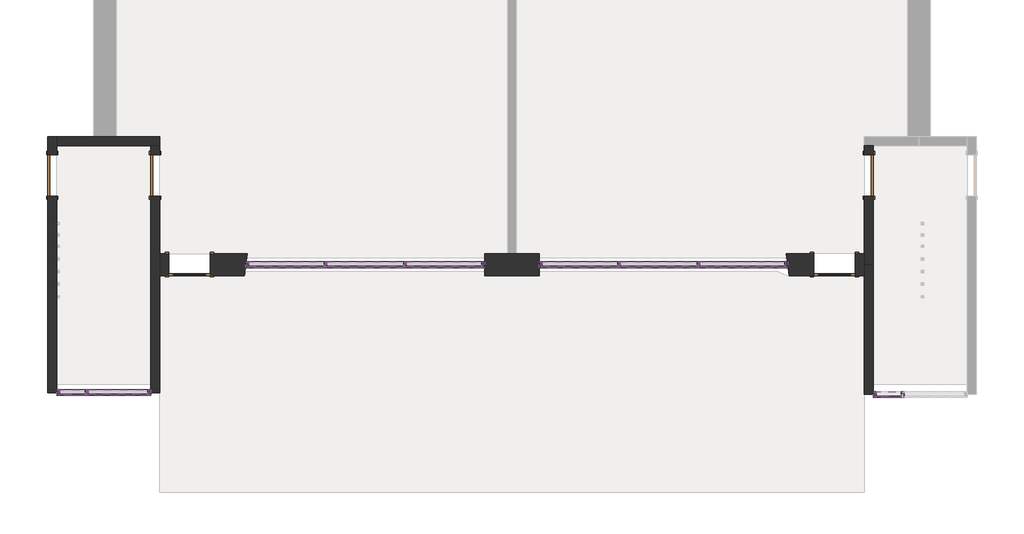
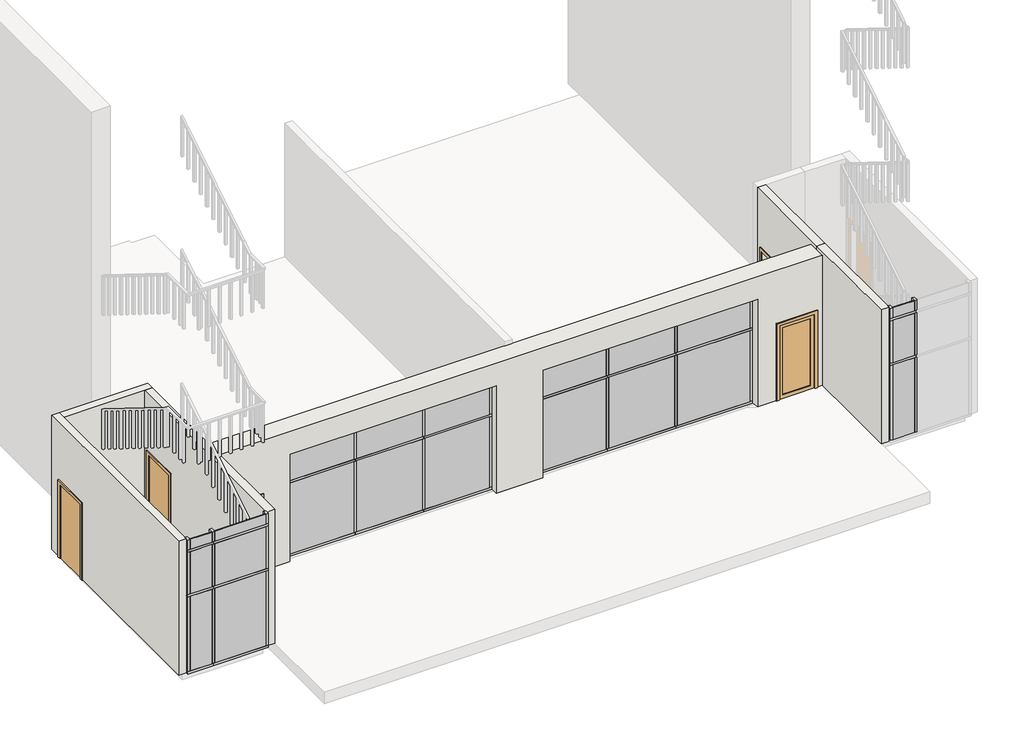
# One storey, part 1 of 4: 57 members, 21 plates, 6 walls, 5 doors.
"""IFC4 building model written with IfcOpenShell, lengths in millimetres."""

from ifc_helpers import new_model, si_unit, frame, origin, origin_with_axes, place, context, project, spatial, polyline, outline, extrude, faceted_brep, transform, mapped, element, save
from components import door_4f2f89b6, door_09f6fe45, door_78e9ea75, door_dbfeadd9, glazed_panel_glazed_panel_06b05642, glazed_panel_glazed_panel_cf187918, glazed_panel_glazed_panel_746f6af5, glazed_panel_glazed_panel_7ef709c1, glazed_panel_glazed_panel_5b8a13f5, glazed_panel_glazed_panel_805796bc, glazed_panel_glazed_panel_5f6da123, glazed_panel_glazed_panel_7e3e46a5, glazed_panel_glazed_panel_cb309cff, glazed_panel_glazed_panel_807801c3, glazed_panel_glazed_panel_a2063601, glazed_panel_glazed_panel_587f74e9, glazed_panel_glazed_panel_0b05cef3, glazed_panel_glazed_panel_5e1e44f7, glazed_panel_glazed_panel_0a1ca9b5, glazed_panel_glazed_panel_ec4ddaf9, glazed_panel_glazed_panel_b5ae23ca, glazed_panel_glazed_panel_424232f6, glazed_panel_glazed_panel_43b35b37

model = new_model("IFC4")

# Units and contexts
model_context = context("Model", 3, world=origin())
ifc_project = project(units=[si_unit("LENGTHUNIT", "METRE", prefix="MILLI")], contexts=[model_context])

# Site, building, storey
site = spatial("IfcSite", under=ifc_project)
building = spatial("IfcBuilding", under=site)
storey = spatial("IfcBuildingStorey", under=building, Name="1st Flr. Cnst.", Elevation=0.0)

# Doors
placement = place(None, origin())
door_shape = door_4f2f89b6(model_context)
element("IfcDoor", 1, ObjectType="Sgl Flush : 36\" x 80\"", at=placement, inside=storey, context=model_context, shape_type="MappedRepresentation", body=[
    mapped(door_shape, transform((-178.915882, -928.8202344, 0.0), x_axis=(0.0, 1.0, 0.0), y_axis=(-1.0, 0.0, 0.0), z_axis=(0.0, 0.0, 1.0))),
])
element("IfcDoor", 2, ObjectType="Sgl Flush : 36\" x 80\"", at=placement, inside=storey, context=model_context, shape_type="MappedRepresentation", body=[
    mapped(door_shape, transform((-2464.915882, -928.8202344, 0.0), x_axis=(0.0, 1.0, 0.0), y_axis=(-1.0, 0.0, 0.0), z_axis=(0.0, 0.0, 1.0))),
])
door_2_shape = door_09f6fe45(model_context)
element("IfcDoor", 3, ObjectType="Sgl Flush : 36\" x 80\"", at=placement, inside=storey, context=model_context, shape_type="MappedRepresentation", body=[
    mapped(door_2_shape, transform((15670.684118, -928.8202344, 0.0), x_axis=(0.0, 1.0, 0.0), y_axis=(-1.0, 0.0, 0.0), z_axis=(0.0, 0.0, 1.0))),
])
door_3_shape = door_78e9ea75(model_context)
element("IfcDoor", 4, ObjectType="Sgl-Glass 1 : 36\" x 80\"", at=placement, inside=storey, context=model_context, shape_type="MappedRepresentation", body=[
    mapped(door_3_shape, transform((583.084118, -2910.0202344, 0.0), x_axis=(-1.0, 0.0, 0.0), y_axis=(0.0, -1.0, 0.0), z_axis=(0.0, 0.0, 1.0))),
])
door_4_shape = door_dbfeadd9(model_context)
element("IfcDoor", 5, ObjectType="Sgl-Glass 1 : 36\" x 80\"", at=placement, inside=storey, context=model_context, shape_type="MappedRepresentation", body=[
    mapped(door_4_shape, transform((14908.684118, -2910.0202344, 0.0), x_axis=(1.0, 0.0, 0.0), y_axis=(0.0, 1.0, 0.0), z_axis=(0.0, 0.0, 1.0))),
])

# Members
element("IfcMember", 6, ObjectType="Rectangular Mullion : 2.5\" x 5\" rectangular", at=placement, inside=storey, context=model_context, shape_type="SweptSolid", body=[
    extrude(outline(polyline([(1835.2099837, -2973.5202344), (1835.2099837, -2846.5202344), (1898.7099837, -2846.5202344), (1898.7099837, -2973.5202344), (1835.2099837, -2973.5202344)])), frame((0.0, 0.0, 2063.75), z_axis=(0.0, 0.0, 1.0), x_axis=(1.0, 0.0, 0.0)), (0.0, 0.0, 1.0), 920.75),
])
element("IfcMember", 7, ObjectType="Rectangular Mullion : 2.5\" x 5\" rectangular", at=placement, inside=storey, context=model_context, shape_type="SweptSolid", body=[
    extrude(outline(polyline([(1835.2099837, -2973.5202344), (1835.2099837, -2846.5202344), (1898.7099837, -2846.5202344), (1898.7099837, -2973.5202344), (1835.2099837, -2973.5202344)])), frame((0.0, 0.0, 63.5), z_axis=(0.0, 0.0, 1.0), x_axis=(1.0, 0.0, 0.0)), (0.0, 0.0, 1.0), 1936.75),
])
element("IfcMember", 8, ObjectType="Rectangular Mullion : 2.5\" x 5\" rectangular", at=placement, inside=storey, context=model_context, shape_type="SweptSolid", body=[
    extrude(outline(polyline([(1835.2099837, -2973.5202344), (1835.2099837, -2846.5202344), (3602.2346951, -2846.5202344), (3602.2346951, -2973.5202344), (1835.2099837, -2973.5202344)])), origin_with_axes(), (0.0, 0.0, 1.0), 63.5),
])
element("IfcMember", 9, ObjectType="Rectangular Mullion : 2.5\" x 5\" rectangular", at=placement, inside=storey, context=model_context, shape_type="SweptSolid", body=[
    extrude(outline(polyline([(3602.2346951, -2973.5202344), (3602.2346951, -2846.5202344), (5369.2594066, -2846.5202344), (5369.2594066, -2973.5202344), (3602.2346951, -2973.5202344)])), origin_with_axes(), (0.0, 0.0, 1.0), 63.5),
])
element("IfcMember", 10, ObjectType="Rectangular Mullion : 2.5\" x 5\" rectangular", at=placement, inside=storey, context=model_context, shape_type="SweptSolid", body=[
    extrude(outline(polyline([(5369.2594066, -2973.5202344), (5369.2594066, -2846.5202344), (7136.284118, -2846.5202344), (7136.284118, -2973.5202344), (5369.2594066, -2973.5202344)])), origin_with_axes(), (0.0, 0.0, 1.0), 63.5),
])
element("IfcMember", 11, ObjectType="Rectangular Mullion : 2.5\" x 5\" rectangular", at=placement, inside=storey, context=model_context, shape_type="SweptSolid", body=[
    extrude(outline(polyline([(7136.284118, -2846.5202344), (7136.284118, -2973.5202344), (5369.2594066, -2973.5202344), (5369.2594066, -2846.5202344), (7136.284118, -2846.5202344)])), frame((0.0, 0.0, 2984.5), z_axis=(0.0, 0.0, 1.0), x_axis=(1.0, 0.0, 0.0)), (0.0, 0.0, 1.0), 63.5),
])
element("IfcMember", 12, ObjectType="Rectangular Mullion : 2.5\" x 5\" rectangular", at=placement, inside=storey, context=model_context, shape_type="SweptSolid", body=[
    extrude(outline(polyline([(3602.2346951, -2846.5202344), (3602.2346951, -2973.5202344), (1835.2099837, -2973.5202344), (1835.2099837, -2846.5202344), (3602.2346951, -2846.5202344)])), frame((0.0, 0.0, 2984.5), z_axis=(0.0, 0.0, 1.0), x_axis=(1.0, 0.0, 0.0)), (0.0, 0.0, 1.0), 63.5),
])
element("IfcMember", 13, ObjectType="Rectangular Mullion : 2.5\" x 5\" rectangular", at=placement, inside=storey, context=model_context, shape_type="SweptSolid", body=[
    extrude(outline(polyline([(5369.2594066, -2846.5202344), (5369.2594066, -2973.5202344), (3602.2346951, -2973.5202344), (3602.2346951, -2846.5202344), (5369.2594066, -2846.5202344)])), frame((0.0, 0.0, 2984.5), z_axis=(0.0, 0.0, 1.0), x_axis=(1.0, 0.0, 0.0)), (0.0, 0.0, 1.0), 63.5),
])
element("IfcMember", 14, ObjectType="Rectangular Mullion : 2.5\" x 5\" rectangular", at=placement, inside=storey, context=model_context, shape_type="SweptSolid", body=[
    extrude(outline(polyline([(3633.9846951, -2973.5202344), (3570.4846951, -2973.5202344), (3570.4846951, -2846.5202344), (3633.9846951, -2846.5202344), (3633.9846951, -2973.5202344)])), frame((0.0, 0.0, 63.5), z_axis=(0.0, 0.0, 1.0), x_axis=(1.0, 0.0, 0.0)), (0.0, 0.0, 1.0), 1936.75),
])
element("IfcMember", 15, ObjectType="Rectangular Mullion : 2.5\" x 5\" rectangular", at=placement, inside=storey, context=model_context, shape_type="SweptSolid", body=[
    extrude(outline(polyline([(3633.9846951, -2973.5202344), (3570.4846951, -2973.5202344), (3570.4846951, -2846.5202344), (3633.9846951, -2846.5202344), (3633.9846951, -2973.5202344)])), frame((0.0, 0.0, 2063.75), z_axis=(0.0, 0.0, 1.0), x_axis=(1.0, 0.0, 0.0)), (0.0, 0.0, 1.0), 920.75),
])
element("IfcMember", 16, ObjectType="Rectangular Mullion : 2.5\" x 5\" rectangular", at=placement, inside=storey, context=model_context, shape_type="SweptSolid", body=[
    extrude(outline(polyline([(3602.2346951, -2846.5202344), (3602.2346951, -2973.5202344), (1835.2099837, -2973.5202344), (1835.2099837, -2846.5202344), (3602.2346951, -2846.5202344)])), frame((0.0, 0.0, 2000.25), z_axis=(0.0, 0.0, 1.0), x_axis=(1.0, 0.0, 0.0)), (0.0, 0.0, 1.0), 63.5),
])
element("IfcMember", 17, ObjectType="Rectangular Mullion : 2.5\" x 5\" rectangular", at=placement, inside=storey, context=model_context, shape_type="SweptSolid", body=[
    extrude(outline(polyline([(5369.2594066, -2846.5202344), (5369.2594066, -2973.5202344), (3602.2346951, -2973.5202344), (3602.2346951, -2846.5202344), (5369.2594066, -2846.5202344)])), frame((0.0, 0.0, 2000.25), z_axis=(0.0, 0.0, 1.0), x_axis=(1.0, 0.0, 0.0)), (0.0, 0.0, 1.0), 63.5),
])
element("IfcMember", 18, ObjectType="Rectangular Mullion : 2.5\" x 5\" rectangular", at=placement, inside=storey, context=model_context, shape_type="SweptSolid", body=[
    extrude(outline(polyline([(7136.284118, -2846.5202344), (7136.284118, -2973.5202344), (5369.2594066, -2973.5202344), (5369.2594066, -2846.5202344), (7136.284118, -2846.5202344)])), frame((0.0, 0.0, 2000.25), z_axis=(0.0, 0.0, 1.0), x_axis=(1.0, 0.0, 0.0)), (0.0, 0.0, 1.0), 63.5),
])
element("IfcMember", 19, ObjectType="Rectangular Mullion : 2.5\" x 5\" rectangular", at=placement, inside=storey, context=model_context, shape_type="SweptSolid", body=[
    extrude(outline(polyline([(5401.0094066, -2973.5202344), (5337.5094066, -2973.5202344), (5337.5094066, -2846.5202344), (5401.0094066, -2846.5202344), (5401.0094066, -2973.5202344)])), frame((0.0, 0.0, 63.5), z_axis=(0.0, 0.0, 1.0), x_axis=(1.0, 0.0, 0.0)), (0.0, 0.0, 1.0), 1936.75),
])
element("IfcMember", 20, ObjectType="Rectangular Mullion : 2.5\" x 5\" rectangular", at=placement, inside=storey, context=model_context, shape_type="SweptSolid", body=[
    extrude(outline(polyline([(5401.0094066, -2973.5202344), (5337.5094066, -2973.5202344), (5337.5094066, -2846.5202344), (5401.0094066, -2846.5202344), (5401.0094066, -2973.5202344)])), frame((0.0, 0.0, 2063.75), z_axis=(0.0, 0.0, 1.0), x_axis=(1.0, 0.0, 0.0)), (0.0, 0.0, 1.0), 920.75),
])
element("IfcMember", 21, ObjectType="Rectangular Mullion : 2.5\" x 5\" rectangular", at=placement, inside=storey, context=model_context, shape_type="SweptSolid", body=[
    extrude(outline(polyline([(7136.284118, -2973.5202344), (7072.784118, -2973.5202344), (7072.784118, -2846.5202344), (7136.284118, -2846.5202344), (7136.284118, -2973.5202344)])), frame((0.0, 0.0, 63.5), z_axis=(0.0, 0.0, 1.0), x_axis=(1.0, 0.0, 0.0)), (0.0, 0.0, 1.0), 1936.75),
])
element("IfcMember", 22, ObjectType="Rectangular Mullion : 2.5\" x 5\" rectangular", at=placement, inside=storey, context=model_context, shape_type="SweptSolid", body=[
    extrude(outline(polyline([(7136.284118, -2973.5202344), (7072.784118, -2973.5202344), (7072.784118, -2846.5202344), (7136.284118, -2846.5202344), (7136.284118, -2973.5202344)])), frame((0.0, 0.0, 2063.75), z_axis=(0.0, 0.0, 1.0), x_axis=(1.0, 0.0, 0.0)), (0.0, 0.0, 1.0), 920.75),
])
element("IfcMember", 23, ObjectType="Rectangular Mullion : 2.5\" x 5\" rectangular", at=placement, inside=storey, context=model_context, shape_type="SweptSolid", body=[
    extrude(outline(polyline([(11889.5335409, -2973.5202344), (11889.5335409, -2846.5202344), (13866.9492343, -2846.5202344), (13866.9492343, -2973.5202344), (11889.5335409, -2973.5202344)])), frame((0.0, 0.0, 2000.25), z_axis=(0.0, 0.0, 1.0), x_axis=(1.0, 0.0, 0.0)), (0.0, 0.0, 1.0), 63.5),
])
element("IfcMember", 24, ObjectType="Rectangular Mullion : 2.5\" x 5\" rectangular", at=placement, inside=storey, context=model_context, shape_type="SweptSolid", body=[
    extrude(outline(polyline([(10122.5088295, -2973.5202344), (10122.5088295, -2846.5202344), (11889.5335409, -2846.5202344), (11889.5335409, -2973.5202344), (10122.5088295, -2973.5202344)])), frame((0.0, 0.0, 2000.25), z_axis=(0.0, 0.0, 1.0), x_axis=(1.0, 0.0, 0.0)), (0.0, 0.0, 1.0), 63.5),
])
element("IfcMember", 25, ObjectType="Rectangular Mullion : 2.5\" x 5\" rectangular", at=placement, inside=storey, context=model_context, shape_type="SweptSolid", body=[
    extrude(outline(polyline([(8355.484118, -2973.5202344), (8355.484118, -2846.5202344), (10122.5088295, -2846.5202344), (10122.5088295, -2973.5202344), (8355.484118, -2973.5202344)])), frame((0.0, 0.0, 2000.25), z_axis=(0.0, 0.0, 1.0), x_axis=(1.0, 0.0, 0.0)), (0.0, 0.0, 1.0), 63.5),
])
element("IfcMember", 26, ObjectType="Rectangular Mullion : 2.5\" x 5\" rectangular", at=placement, inside=storey, context=model_context, shape_type="SweptSolid", body=[
    extrude(outline(polyline([(10090.7588295, -2846.5202344), (10154.2588295, -2846.5202344), (10154.2588295, -2973.5202344), (10090.7588295, -2973.5202344), (10090.7588295, -2846.5202344)])), frame((0.0, 0.0, 63.5), z_axis=(0.0, 0.0, 1.0), x_axis=(1.0, 0.0, 0.0)), (0.0, 0.0, 1.0), 1936.75),
])
element("IfcMember", 27, ObjectType="Rectangular Mullion : 2.5\" x 5\" rectangular", at=placement, inside=storey, context=model_context, shape_type="SweptSolid", body=[
    extrude(outline(polyline([(10090.7588295, -2846.5202344), (10154.2588295, -2846.5202344), (10154.2588295, -2973.5202344), (10090.7588295, -2973.5202344), (10090.7588295, -2846.5202344)])), frame((0.0, 0.0, 2063.75), z_axis=(0.0, 0.0, 1.0), x_axis=(1.0, 0.0, 0.0)), (0.0, 0.0, 1.0), 920.75),
])
element("IfcMember", 28, ObjectType="Rectangular Mullion : 2.5\" x 5\" rectangular", at=placement, inside=storey, context=model_context, shape_type="SweptSolid", body=[
    extrude(outline(polyline([(11857.7835409, -2846.5202344), (11921.2835409, -2846.5202344), (11921.2835409, -2973.5202344), (11857.7835409, -2973.5202344), (11857.7835409, -2846.5202344)])), frame((0.0, 0.0, 63.5), z_axis=(0.0, 0.0, 1.0), x_axis=(1.0, 0.0, 0.0)), (0.0, 0.0, 1.0), 1936.75),
])
element("IfcMember", 29, ObjectType="Rectangular Mullion : 2.5\" x 5\" rectangular", at=placement, inside=storey, context=model_context, shape_type="SweptSolid", body=[
    extrude(outline(polyline([(11857.7835409, -2846.5202344), (11921.2835409, -2846.5202344), (11921.2835409, -2973.5202344), (11857.7835409, -2973.5202344), (11857.7835409, -2846.5202344)])), frame((0.0, 0.0, 2063.75), z_axis=(0.0, 0.0, 1.0), x_axis=(1.0, 0.0, 0.0)), (0.0, 0.0, 1.0), 920.75),
])
element("IfcMember", 30, ObjectType="Rectangular Mullion : 2.5\" x 5\" rectangular", at=placement, inside=storey, context=model_context, shape_type="SweptSolid", body=[
    extrude(outline(polyline([(8355.484118, -2846.5202344), (8418.984118, -2846.5202344), (8418.984118, -2973.5202344), (8355.484118, -2973.5202344), (8355.484118, -2846.5202344)])), frame((0.0, 0.0, 63.5), z_axis=(0.0, 0.0, 1.0), x_axis=(1.0, 0.0, 0.0)), (0.0, 0.0, 1.0), 1936.75),
])
element("IfcMember", 31, ObjectType="Rectangular Mullion : 2.5\" x 5\" rectangular", at=placement, inside=storey, context=model_context, shape_type="SweptSolid", body=[
    extrude(outline(polyline([(8355.484118, -2846.5202344), (8418.984118, -2846.5202344), (8418.984118, -2973.5202344), (8355.484118, -2973.5202344), (8355.484118, -2846.5202344)])), frame((0.0, 0.0, 2063.75), z_axis=(0.0, 0.0, 1.0), x_axis=(1.0, 0.0, 0.0)), (0.0, 0.0, 1.0), 920.75),
])
element("IfcMember", 32, ObjectType="Rectangular Mullion : 2.5\" x 5\" rectangular", at=placement, inside=storey, context=model_context, shape_type="SweptSolid", body=[
    extrude(outline(polyline([(13866.9492343, -2846.5202344), (13866.9492343, -2973.5202344), (13803.4492343, -2973.5202344), (13803.4492343, -2846.5202344), (13866.9492343, -2846.5202344)])), frame((0.0, 0.0, 2063.75), z_axis=(0.0, 0.0, 1.0), x_axis=(1.0, 0.0, 0.0)), (0.0, 0.0, 1.0), 920.75),
])
element("IfcMember", 33, ObjectType="Rectangular Mullion : 2.5\" x 5\" rectangular", at=placement, inside=storey, context=model_context, shape_type="SweptSolid", body=[
    extrude(outline(polyline([(13866.9492343, -2846.5202344), (13866.9492343, -2973.5202344), (13803.4492343, -2973.5202344), (13803.4492343, -2846.5202344), (13866.9492343, -2846.5202344)])), frame((0.0, 0.0, 63.5), z_axis=(0.0, 0.0, 1.0), x_axis=(1.0, 0.0, 0.0)), (0.0, 0.0, 1.0), 1936.75),
])
element("IfcMember", 34, ObjectType="Rectangular Mullion : 2.5\" x 5\" rectangular", at=placement, inside=storey, context=model_context, shape_type="SweptSolid", body=[
    extrude(outline(polyline([(13866.9492343, -2846.5202344), (13866.9492343, -2973.5202344), (11889.5335409, -2973.5202344), (11889.5335409, -2846.5202344), (13866.9492343, -2846.5202344)])), origin_with_axes(), (0.0, 0.0, 1.0), 63.5),
])
element("IfcMember", 35, ObjectType="Rectangular Mullion : 2.5\" x 5\" rectangular", at=placement, inside=storey, context=model_context, shape_type="SweptSolid", body=[
    extrude(outline(polyline([(11889.5335409, -2846.5202344), (11889.5335409, -2973.5202344), (10122.5088295, -2973.5202344), (10122.5088295, -2846.5202344), (11889.5335409, -2846.5202344)])), origin_with_axes(), (0.0, 0.0, 1.0), 63.5),
])
element("IfcMember", 36, ObjectType="Rectangular Mullion : 2.5\" x 5\" rectangular", at=placement, inside=storey, context=model_context, shape_type="SweptSolid", body=[
    extrude(outline(polyline([(10122.5088295, -2846.5202344), (10122.5088295, -2973.5202344), (8355.484118, -2973.5202344), (8355.484118, -2846.5202344), (10122.5088295, -2846.5202344)])), origin_with_axes(), (0.0, 0.0, 1.0), 63.5),
])
element("IfcMember", 37, ObjectType="Rectangular Mullion : 2.5\" x 5\" rectangular", at=placement, inside=storey, context=model_context, shape_type="SweptSolid", body=[
    extrude(outline(polyline([(8355.484118, -2973.5202344), (8355.484118, -2846.5202344), (10122.5088295, -2846.5202344), (10122.5088295, -2973.5202344), (8355.484118, -2973.5202344)])), frame((0.0, 0.0, 2984.5), z_axis=(0.0, 0.0, 1.0), x_axis=(1.0, 0.0, 0.0)), (0.0, 0.0, 1.0), 63.5),
])
element("IfcMember", 38, ObjectType="Rectangular Mullion : 2.5\" x 5\" rectangular", at=placement, inside=storey, context=model_context, shape_type="SweptSolid", body=[
    extrude(outline(polyline([(11889.5335409, -2973.5202344), (11889.5335409, -2846.5202344), (13866.9492343, -2846.5202344), (13866.9492343, -2973.5202344), (11889.5335409, -2973.5202344)])), frame((0.0, 0.0, 2984.5), z_axis=(0.0, 0.0, 1.0), x_axis=(1.0, 0.0, 0.0)), (0.0, 0.0, 1.0), 63.5),
])
element("IfcMember", 39, ObjectType="Rectangular Mullion : 2.5\" x 5\" rectangular", at=placement, inside=storey, context=model_context, shape_type="SweptSolid", body=[
    extrude(outline(polyline([(10122.5088295, -2973.5202344), (10122.5088295, -2846.5202344), (11889.5335409, -2846.5202344), (11889.5335409, -2973.5202344), (10122.5088295, -2973.5202344)])), frame((0.0, 0.0, 2984.5), z_axis=(0.0, 0.0, 1.0), x_axis=(1.0, 0.0, 0.0)), (0.0, 0.0, 1.0), 63.5),
])
element("IfcMember", 40, ObjectType="Rectangular Mullion : 2.5\" x 5\" rectangular", at=placement, inside=storey, context=model_context, shape_type="SweptSolid", body=[
    extrude(outline(polyline([(-1734.665882, -5685.6581603), (-1671.165882, -5685.6581603), (-1671.165882, -5812.6581603), (-1734.665882, -5812.6581603), (-1734.665882, -5685.6581603)])), frame((0.0, 0.0, 63.5), z_axis=(0.0, 0.0, 1.0), x_axis=(1.0, 0.0, 0.0)), (0.0, 0.0, 1.0), 2038.35),
])
element("IfcMember", 41, ObjectType="Rectangular Mullion : 2.5\" x 5\" rectangular", at=placement, inside=storey, context=model_context, shape_type="SweptSolid", body=[
    extrude(outline(polyline([(-1734.665882, -5685.6581603), (-1671.165882, -5685.6581603), (-1671.165882, -5812.6581603), (-1734.665882, -5812.6581603), (-1734.665882, -5685.6581603)])), frame((0.0, 0.0, 3384.55), z_axis=(0.0, 0.0, 1.0), x_axis=(1.0, 0.0, 0.0)), (0.0, 0.0, 1.0), 273.05),
])
element("IfcMember", 42, ObjectType="Rectangular Mullion : 2.5\" x 5\" rectangular", at=placement, inside=storey, context=model_context, shape_type="SweptSolid", body=[
    extrude(outline(polyline([(-1734.665882, -5685.6581603), (-1671.165882, -5685.6581603), (-1671.165882, -5812.6581603), (-1734.665882, -5812.6581603), (-1734.665882, -5685.6581603)])), frame((0.0, 0.0, 2165.35), z_axis=(0.0, 0.0, 1.0), x_axis=(1.0, 0.0, 0.0)), (0.0, 0.0, 1.0), 1155.7),
])
element("IfcMember", 43, ObjectType="Rectangular Mullion : 2.5\" x 5\" rectangular", at=placement, inside=storey, context=model_context, shape_type="SweptSolid", body=[
    extrude(outline(polyline([(-280.515882, -5685.6581603), (-280.515882, -5812.6581603), (-1702.915882, -5812.6581603), (-1702.915882, -5685.6581603), (-280.515882, -5685.6581603)])), origin_with_axes(), (0.0, 0.0, 1.0), 63.5),
])
element("IfcMember", 44, ObjectType="Rectangular Mullion : 2.5\" x 5\" rectangular", at=placement, inside=storey, context=model_context, shape_type="SweptSolid", body=[
    extrude(outline(polyline([(-2363.315882, -5685.6581603), (-2299.815882, -5685.6581603), (-2299.815882, -5812.6581603), (-2363.315882, -5812.6581603), (-2363.315882, -5685.6581603)])), frame((0.0, 0.0, 63.5), z_axis=(0.0, 0.0, 1.0), x_axis=(1.0, 0.0, 0.0)), (0.0, 0.0, 1.0), 2038.35),
])
element("IfcMember", 45, ObjectType="Rectangular Mullion : 2.5\" x 5\" rectangular", at=placement, inside=storey, context=model_context, shape_type="SweptSolid", body=[
    extrude(outline(polyline([(-280.515882, -5685.6581603), (-280.515882, -5812.6581603), (-344.015882, -5812.6581603), (-344.015882, -5685.6581603), (-280.515882, -5685.6581603)])), frame((0.0, 0.0, 3384.55), z_axis=(0.0, 0.0, 1.0), x_axis=(1.0, 0.0, 0.0)), (0.0, 0.0, 1.0), 273.05),
])
element("IfcMember", 46, ObjectType="Rectangular Mullion : 2.5\" x 5\" rectangular", at=placement, inside=storey, context=model_context, shape_type="SweptSolid", body=[
    extrude(outline(polyline([(-1702.915882, -5812.6581603), (-1702.915882, -5685.6581603), (-280.515882, -5685.6581603), (-280.515882, -5812.6581603), (-1702.915882, -5812.6581603)])), frame((0.0, 0.0, 3321.05), z_axis=(0.0, 0.0, 1.0), x_axis=(1.0, 0.0, 0.0)), (0.0, 0.0, 1.0), 63.5),
])
element("IfcMember", 47, ObjectType="Rectangular Mullion : 2.5\" x 5\" rectangular", at=placement, inside=storey, context=model_context, shape_type="SweptSolid", body=[
    extrude(outline(polyline([(-2363.315882, -5812.6581603), (-2363.315882, -5685.6581603), (-1702.915882, -5685.6581603), (-1702.915882, -5812.6581603), (-2363.315882, -5812.6581603)])), frame((0.0, 0.0, 3321.05), z_axis=(0.0, 0.0, 1.0), x_axis=(1.0, 0.0, 0.0)), (0.0, 0.0, 1.0), 63.5),
])
element("IfcMember", 48, ObjectType="Rectangular Mullion : 2.5\" x 5\" rectangular", at=placement, inside=storey, context=model_context, shape_type="SweptSolid", body=[
    extrude(outline(polyline([(-1702.915882, -5812.6581603), (-1702.915882, -5685.6581603), (-280.515882, -5685.6581603), (-280.515882, -5812.6581603), (-1702.915882, -5812.6581603)])), frame((0.0, 0.0, 2101.85), z_axis=(0.0, 0.0, 1.0), x_axis=(1.0, 0.0, 0.0)), (0.0, 0.0, 1.0), 63.5),
])
element("IfcMember", 49, ObjectType="Rectangular Mullion : 2.5\" x 5\" rectangular", at=placement, inside=storey, context=model_context, shape_type="SweptSolid", body=[
    extrude(outline(polyline([(-2363.315882, -5812.6581603), (-2363.315882, -5685.6581603), (-1702.915882, -5685.6581603), (-1702.915882, -5812.6581603), (-2363.315882, -5812.6581603)])), frame((0.0, 0.0, 2101.85), z_axis=(0.0, 0.0, 1.0), x_axis=(1.0, 0.0, 0.0)), (0.0, 0.0, 1.0), 63.5),
])
element("IfcMember", 50, ObjectType="Rectangular Mullion : 2.5\" x 5\" rectangular", at=placement, inside=storey, context=model_context, shape_type="SweptSolid", body=[
    extrude(outline(polyline([(-1702.915882, -5685.6581603), (-1702.915882, -5812.6581603), (-2363.315882, -5812.6581603), (-2363.315882, -5685.6581603), (-1702.915882, -5685.6581603)])), origin_with_axes(), (0.0, 0.0, 1.0), 63.5),
])
element("IfcMember", 51, ObjectType="Rectangular Mullion : 2.5\" x 5\" rectangular", at=placement, inside=storey, context=model_context, shape_type="SweptSolid", body=[
    extrude(outline(polyline([(-2363.315882, -5685.6581603), (-2299.815882, -5685.6581603), (-2299.815882, -5812.6581603), (-2363.315882, -5812.6581603), (-2363.315882, -5685.6581603)])), frame((0.0, 0.0, 3384.55), z_axis=(0.0, 0.0, 1.0), x_axis=(1.0, 0.0, 0.0)), (0.0, 0.0, 1.0), 273.05),
])
element("IfcMember", 52, ObjectType="Rectangular Mullion : 2.5\" x 5\" rectangular", at=placement, inside=storey, context=model_context, shape_type="SweptSolid", body=[
    extrude(outline(polyline([(-2363.315882, -5685.6581603), (-2299.815882, -5685.6581603), (-2299.815882, -5812.6581603), (-2363.315882, -5812.6581603), (-2363.315882, -5685.6581603)])), frame((0.0, 0.0, 2165.35), z_axis=(0.0, 0.0, 1.0), x_axis=(1.0, 0.0, 0.0)), (0.0, 0.0, 1.0), 1155.7),
])
element("IfcMember", 53, ObjectType="Rectangular Mullion : 2.5\" x 5\" rectangular", at=placement, inside=storey, context=model_context, shape_type="SweptSolid", body=[
    extrude(outline(polyline([(-280.515882, -5685.6581603), (-280.515882, -5812.6581603), (-344.015882, -5812.6581603), (-344.015882, -5685.6581603), (-280.515882, -5685.6581603)])), frame((0.0, 0.0, 2165.35), z_axis=(0.0, 0.0, 1.0), x_axis=(1.0, 0.0, 0.0)), (0.0, 0.0, 1.0), 1155.7),
])
element("IfcMember", 54, ObjectType="Rectangular Mullion : 2.5\" x 5\" rectangular", at=placement, inside=storey, context=model_context, shape_type="SweptSolid", body=[
    extrude(outline(polyline([(-280.515882, -5685.6581603), (-280.515882, -5812.6581603), (-344.015882, -5812.6581603), (-344.015882, -5685.6581603), (-280.515882, -5685.6581603)])), frame((0.0, 0.0, 63.5), z_axis=(0.0, 0.0, 1.0), x_axis=(1.0, 0.0, 0.0)), (0.0, 0.0, 1.0), 2038.35),
])
element("IfcMember", 55, ObjectType="Rectangular Mullion : 2.5\" x 5\" rectangular", at=placement, inside=storey, context=model_context, shape_type="SweptSolid", body=[
    extrude(outline(polyline([(16396.171618, -5729.4662808), (16459.671618, -5729.4662808), (16459.671618, -5856.4662808), (16396.171618, -5856.4662808), (16396.171618, -5729.4662808)])), frame((0.0, 0.0, 63.5), z_axis=(0.0, 0.0, 1.0), x_axis=(1.0, 0.0, 0.0)), (0.0, 0.0, 1.0), 2038.35),
])
element("IfcMember", 56, ObjectType="Rectangular Mullion : 2.5\" x 5\" rectangular", at=placement, inside=storey, context=model_context, shape_type="SweptSolid", body=[
    extrude(outline(polyline([(16396.171618, -5729.4662808), (16459.671618, -5729.4662808), (16459.671618, -5856.4662808), (16396.171618, -5856.4662808), (16396.171618, -5729.4662808)])), frame((0.0, 0.0, 3384.55), z_axis=(0.0, 0.0, 1.0), x_axis=(1.0, 0.0, 0.0)), (0.0, 0.0, 1.0), 273.05),
])
element("IfcMember", 57, ObjectType="Rectangular Mullion : 2.5\" x 5\" rectangular", at=placement, inside=storey, context=model_context, shape_type="SweptSolid", body=[
    extrude(outline(polyline([(16396.171618, -5729.4662808), (16459.671618, -5729.4662808), (16459.671618, -5856.4662808), (16396.171618, -5856.4662808), (16396.171618, -5729.4662808)])), frame((0.0, 0.0, 2165.35), z_axis=(0.0, 0.0, 1.0), x_axis=(1.0, 0.0, 0.0)), (0.0, 0.0, 1.0), 1155.7),
])
element("IfcMember", 58, ObjectType="Rectangular Mullion : 2.5\" x 5\" rectangular", at=placement, inside=storey, context=model_context, shape_type="SweptSolid", body=[
    extrude(outline(polyline([(15772.284118, -5729.4662808), (15835.784118, -5729.4662808), (15835.784118, -5856.4662808), (15772.284118, -5856.4662808), (15772.284118, -5729.4662808)])), frame((0.0, 0.0, 63.5), z_axis=(0.0, 0.0, 1.0), x_axis=(1.0, 0.0, 0.0)), (0.0, 0.0, 1.0), 2038.35),
])
element("IfcMember", 59, ObjectType="Rectangular Mullion : 2.5\" x 5\" rectangular", at=placement, inside=storey, context=model_context, shape_type="SweptSolid", body=[
    extrude(outline(polyline([(15772.284118, -5856.4662808), (15772.284118, -5729.4662808), (16427.921618, -5729.4662808), (16427.921618, -5856.4662808), (15772.284118, -5856.4662808)])), frame((0.0, 0.0, 3321.05), z_axis=(0.0, 0.0, 1.0), x_axis=(1.0, 0.0, 0.0)), (0.0, 0.0, 1.0), 63.5),
])
element("IfcMember", 60, ObjectType="Rectangular Mullion : 2.5\" x 5\" rectangular", at=placement, inside=storey, context=model_context, shape_type="SweptSolid", body=[
    extrude(outline(polyline([(15772.284118, -5856.4662808), (15772.284118, -5729.4662808), (16427.921618, -5729.4662808), (16427.921618, -5856.4662808), (15772.284118, -5856.4662808)])), frame((0.0, 0.0, 2101.85), z_axis=(0.0, 0.0, 1.0), x_axis=(1.0, 0.0, 0.0)), (0.0, 0.0, 1.0), 63.5),
])
element("IfcMember", 61, ObjectType="Rectangular Mullion : 2.5\" x 5\" rectangular", at=placement, inside=storey, context=model_context, shape_type="SweptSolid", body=[
    extrude(outline(polyline([(15772.284118, -5729.4662808), (15835.784118, -5729.4662808), (15835.784118, -5856.4662808), (15772.284118, -5856.4662808), (15772.284118, -5729.4662808)])), frame((0.0, 0.0, 3384.55), z_axis=(0.0, 0.0, 1.0), x_axis=(1.0, 0.0, 0.0)), (0.0, 0.0, 1.0), 273.05),
])
element("IfcMember", 62, ObjectType="Rectangular Mullion : 2.5\" x 5\" rectangular", at=placement, inside=storey, context=model_context, shape_type="SweptSolid", body=[
    extrude(outline(polyline([(15772.284118, -5729.4662808), (15835.784118, -5729.4662808), (15835.784118, -5856.4662808), (15772.284118, -5856.4662808), (15772.284118, -5729.4662808)])), frame((0.0, 0.0, 2165.35), z_axis=(0.0, 0.0, 1.0), x_axis=(1.0, 0.0, 0.0)), (0.0, 0.0, 1.0), 1155.7),
])

# Plates
glazed_panel_glazed_panel_shape = glazed_panel_glazed_panel_06b05642(model_context)
element("IfcPlate", 63, ObjectType="Glazed Panel : Glazed Panel", at=placement, inside=storey, context=model_context, shape_type="MappedRepresentation", body=[
    mapped(glazed_panel_glazed_panel_shape, transform((-1007.590882, -5749.1581603, 63.5), x_axis=(-1.0, 0.0, 0.0), y_axis=(0.0, -1.0, 0.0), z_axis=(0.0, 0.0, 1.0))),
])
glazed_panel_glazed_panel_2_shape = glazed_panel_glazed_panel_cf187918(model_context)
element("IfcPlate", 64, ObjectType="Glazed Panel : Glazed Panel", at=placement, inside=storey, context=model_context, shape_type="MappedRepresentation", body=[
    mapped(glazed_panel_glazed_panel_2_shape, transform((2734.5973394, -2910.0202344, 63.5), x_axis=(1.0, 0.0, 0.0), y_axis=(0.0, 1.0, 0.0), z_axis=(0.0, 0.0, 1.0))),
])
element("IfcPlate", 65, ObjectType="Glazed Panel : Glazed Panel", at=placement, inside=storey, context=model_context, shape_type="MappedRepresentation", body=[
    mapped(glazed_panel_glazed_panel_2_shape, transform((6236.8967623, -2910.0202344, 63.5), x_axis=(1.0, 0.0, 0.0), y_axis=(0.0, 1.0, 0.0), z_axis=(0.0, 0.0, 1.0))),
])
glazed_panel_glazed_panel_3_shape = glazed_panel_glazed_panel_746f6af5(model_context)
element("IfcPlate", 66, ObjectType="Glazed Panel : Glazed Panel", at=placement, inside=storey, context=model_context, shape_type="MappedRepresentation", body=[
    mapped(glazed_panel_glazed_panel_3_shape, transform((12862.3663876, -2910.0202344, 63.5), x_axis=(-1.0, 0.0, 0.0), y_axis=(0.0, -1.0, 0.0), z_axis=(0.0, 0.0, 1.0))),
])
glazed_panel_glazed_panel_4_shape = glazed_panel_glazed_panel_7ef709c1(model_context)
element("IfcPlate", 67, ObjectType="Glazed Panel : Glazed Panel", at=placement, inside=storey, context=model_context, shape_type="MappedRepresentation", body=[
    mapped(glazed_panel_glazed_panel_4_shape, transform((2734.5973394, -2910.0202344, 2063.75), x_axis=(1.0, 0.0, 0.0), y_axis=(0.0, 1.0, 0.0), z_axis=(0.0, 0.0, 1.0))),
])
element("IfcPlate", 68, ObjectType="Glazed Panel : Glazed Panel", at=placement, inside=storey, context=model_context, shape_type="MappedRepresentation", body=[
    mapped(glazed_panel_glazed_panel_4_shape, transform((6236.8967623, -2910.0202344, 2063.75), x_axis=(1.0, 0.0, 0.0), y_axis=(0.0, 1.0, 0.0), z_axis=(0.0, 0.0, 1.0))),
])
glazed_panel_glazed_panel_5_shape = glazed_panel_glazed_panel_5b8a13f5(model_context)
element("IfcPlate", 69, ObjectType="Glazed Panel : Glazed Panel", at=placement, inside=storey, context=model_context, shape_type="MappedRepresentation", body=[
    mapped(glazed_panel_glazed_panel_5_shape, transform((12862.3663876, -2910.0202344, 2063.75), x_axis=(-1.0, 0.0, 0.0), y_axis=(0.0, -1.0, 0.0), z_axis=(0.0, 0.0, 1.0))),
])
glazed_panel_glazed_panel_6_shape = glazed_panel_glazed_panel_805796bc(model_context)
element("IfcPlate", 70, ObjectType="Glazed Panel : Glazed Panel", at=placement, inside=storey, context=model_context, shape_type="MappedRepresentation", body=[
    mapped(glazed_panel_glazed_panel_6_shape, transform((4485.7470509, -2910.0202344, 63.5), x_axis=(1.0, 0.0, 0.0), y_axis=(0.0, 1.0, 0.0), z_axis=(0.0, 0.0, 1.0))),
])
glazed_panel_glazed_panel_7_shape = glazed_panel_glazed_panel_5f6da123(model_context)
element("IfcPlate", 71, ObjectType="Glazed Panel : Glazed Panel", at=placement, inside=storey, context=model_context, shape_type="MappedRepresentation", body=[
    mapped(glazed_panel_glazed_panel_7_shape, transform((4485.7470509, -2910.0202344, 2063.75), x_axis=(1.0, 0.0, 0.0), y_axis=(0.0, 1.0, 0.0), z_axis=(0.0, 0.0, 1.0))),
])
glazed_panel_glazed_panel_8_shape = glazed_panel_glazed_panel_7e3e46a5(model_context)
element("IfcPlate", 72, ObjectType="Glazed Panel : Glazed Panel", at=placement, inside=storey, context=model_context, shape_type="MappedRepresentation", body=[
    mapped(glazed_panel_glazed_panel_8_shape, transform((11006.0211852, -2910.0202344, 63.5), x_axis=(-1.0, 0.0, 0.0), y_axis=(0.0, -1.0, 0.0), z_axis=(0.0, 0.0, 1.0))),
])
glazed_panel_glazed_panel_9_shape = glazed_panel_glazed_panel_cb309cff(model_context)
element("IfcPlate", 73, ObjectType="Glazed Panel : Glazed Panel", at=placement, inside=storey, context=model_context, shape_type="MappedRepresentation", body=[
    mapped(glazed_panel_glazed_panel_9_shape, transform((11006.0211852, -2910.0202344, 2063.75), x_axis=(-1.0, 0.0, 0.0), y_axis=(0.0, -1.0, 0.0), z_axis=(0.0, 0.0, 1.0))),
])
glazed_panel_glazed_panel_10_shape = glazed_panel_glazed_panel_807801c3(model_context)
element("IfcPlate", 74, ObjectType="Glazed Panel : Glazed Panel", at=placement, inside=storey, context=model_context, shape_type="MappedRepresentation", body=[
    mapped(glazed_panel_glazed_panel_10_shape, transform((9254.8714738, -2910.0202344, 63.5), x_axis=(-1.0, 0.0, 0.0), y_axis=(0.0, -1.0, 0.0), z_axis=(0.0, 0.0, 1.0))),
])
glazed_panel_glazed_panel_11_shape = glazed_panel_glazed_panel_a2063601(model_context)
element("IfcPlate", 75, ObjectType="Glazed Panel : Glazed Panel", at=placement, inside=storey, context=model_context, shape_type="MappedRepresentation", body=[
    mapped(glazed_panel_glazed_panel_11_shape, transform((9254.8714738, -2910.0202344, 2063.75), x_axis=(-1.0, 0.0, 0.0), y_axis=(0.0, -1.0, 0.0), z_axis=(0.0, 0.0, 1.0))),
])
glazed_panel_glazed_panel_12_shape = glazed_panel_glazed_panel_587f74e9(model_context)
element("IfcPlate", 76, ObjectType="Glazed Panel : Glazed Panel", at=placement, inside=storey, context=model_context, shape_type="MappedRepresentation", body=[
    mapped(glazed_panel_glazed_panel_12_shape, transform((-1007.590882, -5749.1581603, 3384.55), x_axis=(-1.0, 0.0, 0.0), y_axis=(0.0, -1.0, 0.0), z_axis=(0.0, 0.0, 1.0))),
])
glazed_panel_glazed_panel_13_shape = glazed_panel_glazed_panel_0b05cef3(model_context)
element("IfcPlate", 77, ObjectType="Glazed Panel : Glazed Panel", at=placement, inside=storey, context=model_context, shape_type="MappedRepresentation", body=[
    mapped(glazed_panel_glazed_panel_13_shape, transform((-2017.240882, -5749.1581603, 63.5), x_axis=(-1.0, 0.0, 0.0), y_axis=(0.0, -1.0, 0.0), z_axis=(0.0, 0.0, 1.0))),
])
glazed_panel_glazed_panel_14_shape = glazed_panel_glazed_panel_5e1e44f7(model_context)
element("IfcPlate", 78, ObjectType="Glazed Panel : Glazed Panel", at=placement, inside=storey, context=model_context, shape_type="MappedRepresentation", body=[
    mapped(glazed_panel_glazed_panel_14_shape, transform((-2017.240882, -5749.1581603, 3384.55), x_axis=(-1.0, 0.0, 0.0), y_axis=(0.0, -1.0, 0.0), z_axis=(0.0, 0.0, 1.0))),
])
glazed_panel_glazed_panel_15_shape = glazed_panel_glazed_panel_0a1ca9b5(model_context)
element("IfcPlate", 79, ObjectType="Glazed Panel : Glazed Panel", at=placement, inside=storey, context=model_context, shape_type="MappedRepresentation", body=[
    mapped(glazed_panel_glazed_panel_15_shape, transform((-1007.590882, -5749.1581603, 2165.35), x_axis=(-1.0, 0.0, 0.0), y_axis=(0.0, -1.0, 0.0), z_axis=(0.0, 0.0, 1.0))),
])
glazed_panel_glazed_panel_16_shape = glazed_panel_glazed_panel_ec4ddaf9(model_context)
element("IfcPlate", 80, ObjectType="Glazed Panel : Glazed Panel", at=placement, inside=storey, context=model_context, shape_type="MappedRepresentation", body=[
    mapped(glazed_panel_glazed_panel_16_shape, transform((-2017.240882, -5749.1581603, 2165.35), x_axis=(-1.0, 0.0, 0.0), y_axis=(0.0, -1.0, 0.0), z_axis=(0.0, 0.0, 1.0))),
])
glazed_panel_glazed_panel_17_shape = glazed_panel_glazed_panel_b5ae23ca(model_context)
element("IfcPlate", 81, ObjectType="Glazed Panel : Glazed Panel", at=placement, inside=storey, context=model_context, shape_type="MappedRepresentation", body=[
    mapped(glazed_panel_glazed_panel_17_shape, transform((16115.977868, -5792.9662808, 63.5), x_axis=(-1.0, 0.0, 0.0), y_axis=(0.0, -1.0, 0.0), z_axis=(0.0, 0.0, 1.0))),
])
glazed_panel_glazed_panel_18_shape = glazed_panel_glazed_panel_424232f6(model_context)
element("IfcPlate", 82, ObjectType="Glazed Panel : Glazed Panel", at=placement, inside=storey, context=model_context, shape_type="MappedRepresentation", body=[
    mapped(glazed_panel_glazed_panel_18_shape, transform((16115.977868, -5792.9662808, 3384.55), x_axis=(-1.0, 0.0, 0.0), y_axis=(0.0, -1.0, 0.0), z_axis=(0.0, 0.0, 1.0))),
])
glazed_panel_glazed_panel_19_shape = glazed_panel_glazed_panel_43b35b37(model_context)
element("IfcPlate", 83, ObjectType="Glazed Panel : Glazed Panel", at=placement, inside=storey, context=model_context, shape_type="MappedRepresentation", body=[
    mapped(glazed_panel_glazed_panel_19_shape, transform((16115.977868, -5792.9662808, 2165.35), x_axis=(-1.0, 0.0, 0.0), y_axis=(0.0, -1.0, 0.0), z_axis=(0.0, 0.0, 1.0))),
])

# Walls
element("IfcWall", 84, ObjectType="Cohouse - Exterior - Conc", at=placement, inside=storey, context=model_context, shape_type="Brep", body=[
    faceted_brep([(-77.315882, -65.2202344, 0.0), (-2363.315882, -65.2202344, 0.0), (-2363.315882, -65.2202344, 3657.6), (-77.315882, -65.2202344, 3657.6), (-77.315882, -268.4202344, 0.0), (-77.315882, -268.4202344, 3657.6), (-280.515882, -268.4202344, 3657.6), (-2363.315882, -268.4202344, 3657.6), (-2363.315882, -268.4202344, 0.0), (-280.515882, -268.4202344, 0.0)], [[[0, 1, 2, 3]], [[4, 5, 6, 7, 8, 9]], [[1, 0, 4, 9, 8]], [[3, 2, 7, 6, 5]], [[0, 3, 5, 4]], [[2, 1, 8, 7]]]),
])
element("IfcWall", 85, ObjectType="Cohouse - Exterior - Conc", at=placement, inside=storey, context=model_context, shape_type="Brep", body=[
    faceted_brep([(-2566.515882, -65.2202344, 0.0), (-2566.515882, -471.6202344, 0.0), (-2566.515882, -471.6202344, 2032.0), (-2566.515882, -1386.0202344, 2032.0), (-2566.515882, -1386.0202344, 0.0), (-2566.515882, -5749.1581603, 0.0), (-2566.515882, -5749.1581603, 3657.6), (-2566.515882, -65.2202344, 3657.6), (-2363.315882, -471.6202344, 2032.0), (-2363.315882, -471.6202344, 0.0), (-2363.315882, -268.4202344, 0.0), (-2363.315882, -65.2202344, 0.0), (-2363.315882, -65.2202344, 3657.6), (-2363.315882, -268.4202344, 3657.6), (-2363.315882, -5749.1581603, 3657.6), (-2363.315882, -5749.1581603, 0.0), (-2363.315882, -1386.0202344, 0.0), (-2363.315882, -1386.0202344, 2032.0)], [[[0, 1, 2, 3, 4, 5, 6, 7]], [[8, 9, 10, 11, 12, 13, 14, 15, 16, 17]], [[11, 10, 9, 1, 0]], [[16, 15, 5, 4]], [[6, 5, 15, 14]], [[7, 6, 14, 13, 12]], [[0, 7, 12, 11]], [[2, 1, 9, 8]], [[3, 2, 8, 17]], [[4, 3, 17, 16]]]),
])
element("IfcWall", 86, ObjectType="Cohouse - Exterior - Conc", at=placement, inside=storey, context=model_context, shape_type="Brep", body=[
    faceted_brep([(-280.515882, -268.4202344, 0.0), (-280.515882, -471.6202344, 0.0), (-280.515882, -471.6202344, 2032.0), (-280.515882, -1386.0202344, 2032.0), (-280.515882, -1386.0202344, 0.0), (-280.515882, -5749.1581603, 0.0), (-280.515882, -5749.1581603, 3657.6), (-280.515882, -268.4202344, 3657.6), (-77.315882, -471.6202344, 2032.0), (-77.315882, -471.6202344, 0.0), (-77.315882, -268.4202344, 0.0), (-77.315882, -268.4202344, 3657.6), (-77.315882, -5749.1581603, 3657.6), (-77.315882, -5749.1581603, 0.0), (-77.315882, -3157.6702344, 0.0), (-77.315882, -2662.3702344, 0.0), (-77.315882, -1386.0202344, 0.0), (-77.315882, -1386.0202344, 2032.0)], [[[0, 1, 2, 3, 4, 5, 6, 7]], [[8, 9, 10, 11, 12, 13, 14, 15, 16, 17]], [[10, 9, 1, 0]], [[16, 15, 14, 13, 5, 4]], [[6, 5, 13, 12]], [[7, 6, 12, 11]], [[0, 7, 11, 10]], [[2, 1, 9, 8]], [[3, 2, 8, 17]], [[4, 3, 17, 16]]]),
])
element("IfcWall", 87, ObjectType="Cohouse - Exterior - Conc", at=placement, inside=storey, context=model_context, shape_type="Brep", body=[
    faceted_brep([(15569.084118, -268.4202344, 0.0), (15569.084118, -471.6202344, 0.0), (15569.084118, -471.6202344, 2032.0), (15569.084118, -1386.0202344, 2032.0), (15569.084118, -1386.0202344, 0.0), (15569.084118, -2662.3702344, 0.0), (15569.084118, -2910.0202344, 0.0), (15569.084118, -2910.0202344, 3657.6), (15569.084118, -268.4202344, 3657.6), (15772.284118, -471.6202344, 2032.0), (15772.284118, -471.6202344, 0.0), (15772.284118, -268.4202344, 0.0), (15772.284118, -268.4202344, 3657.6), (15772.284118, -2910.0202344, 3657.6), (15772.284118, -2910.0202344, 0.0), (15772.284118, -1386.0202344, 0.0), (15772.284118, -1386.0202344, 2032.0)], [[[0, 1, 2, 3, 4, 5, 6, 7, 8]], [[9, 10, 11, 12, 13, 14, 15, 16]], [[11, 10, 1, 0]], [[15, 14, 6, 5, 4]], [[7, 6, 14, 13]], [[8, 7, 13, 12]], [[0, 8, 12, 11]], [[2, 1, 10, 9]], [[3, 2, 9, 16]], [[4, 3, 16, 15]]]),
])
element("IfcWall", 88, ObjectType="Cohouse - Exterior - Conc", at=placement, inside=storey, context=model_context, shape_type="Brep", body=[
    faceted_brep([(15569.084118, -2910.0202344, 0.0), (15569.084118, -3157.6702344, 0.0), (15569.084118, -5792.9662808, 0.0), (15569.084118, -5792.9662808, 3657.6), (15569.084118, -2910.0202344, 3657.6), (15772.284118, -2910.0202344, 0.0), (15772.284118, -2910.0202344, 3657.6), (15772.284118, -5792.9662808, 3657.6), (15772.284118, -5792.9662808, 0.0)], [[[0, 1, 2, 3, 4]], [[5, 6, 7, 8]], [[2, 1, 0, 5, 8]], [[3, 2, 8, 7]], [[4, 3, 7, 6]], [[0, 4, 6, 5]]]),
])
element("IfcWall", 89, ObjectType="Co-house - Exterior - Brick on CMU", at=placement, inside=storey, context=model_context, shape_type="Brep", body=[
    faceted_brep([(15365.884118, -3157.6702344, 2032.0), (15365.884118, -3157.6702344, 0.0), (15569.084118, -3157.6702344, 0.0), (15569.084118, -3157.6702344, 3549.65), (-77.315882, -3157.6702344, 3549.65), (-77.315882, -3157.6702344, 0.0), (125.884118, -3157.6702344, 0.0), (125.884118, -3157.6702344, 2032.0), (1040.284118, -3157.6702344, 2032.0), (1040.284118, -3157.6702344, 0.0), (1802.5171906, -3157.6702344, 0.0), (1802.5171906, -3157.6702344, 2940.05), (7136.284118, -3157.6702344, 2940.05), (7136.284118, -3157.6702344, 0.0), (8348.6821195, -3157.6702344, 0.0), (8348.6821195, -3157.6702344, 2940.05), (13899.5529754, -3157.6702344, 2940.05), (13899.5529754, -3157.6702344, 0.0), (14451.484118, -3157.6702344, 0.0), (14451.484118, -3157.6702344, 2032.0), (15569.084118, -2662.3702344, 0.0), (15365.884118, -2662.3702344, 0.0), (15365.884118, -2662.3702344, 2032.0), (14451.484118, -2662.3702344, 2032.0), (14451.484118, -2662.3702344, 0.0), (13834.3454933, -2662.3702344, 0.0), (13834.3454933, -2662.3702344, 2940.05), (8348.6821195, -2662.3702344, 2940.05), (8348.6821195, -2662.3702344, 0.0), (7842.721618, -2662.3702344, 0.0), (7649.046618, -2662.3702344, 0.0), (7136.284118, -2662.3702344, 0.0), (7136.284118, -2662.3702344, 2940.05), (1867.9027768, -2662.3702344, 2940.05), (1867.9027768, -2662.3702344, 0.0), (1040.284118, -2662.3702344, 0.0), (1040.284118, -2662.3702344, 2032.0), (125.884118, -2662.3702344, 2032.0), (125.884118, -2662.3702344, 0.0), (-77.315882, -2662.3702344, 0.0), (-77.315882, -2662.3702344, 3549.65), (15569.084118, -2662.3702344, 3549.65), (15569.084118, -2910.0202344, 0.0)], [[[0, 1, 2, 3, 4, 5, 6, 7, 8, 9, 10, 11, 12, 13, 14, 15, 16, 17, 18, 19]], [[20, 21, 22, 23, 24, 25, 26, 27, 28, 29, 30, 31, 32, 33, 34, 35, 36, 37, 38, 39, 40, 41]], [[39, 38, 6, 5]], [[35, 34, 10, 9]], [[12, 11, 33, 32]], [[13, 12, 32, 31]], [[14, 13, 31, 30, 29, 28]], [[15, 14, 28, 27]], [[16, 15, 27, 26]], [[2, 1, 21, 20, 42]], [[18, 17, 25, 24]], [[4, 3, 41, 40]], [[5, 4, 40, 39]], [[3, 2, 42, 20, 41]], [[11, 10, 34, 33]], [[17, 16, 26, 25]], [[7, 6, 38, 37]], [[8, 7, 37, 36]], [[9, 8, 36, 35]], [[22, 21, 1, 0]], [[23, 22, 0, 19]], [[24, 23, 19, 18]]]),
])

save(model, "model.ifc")
